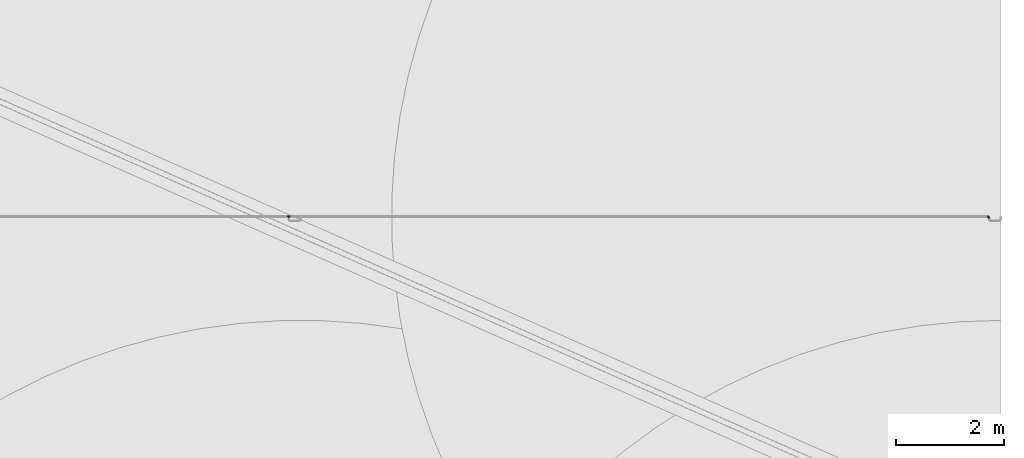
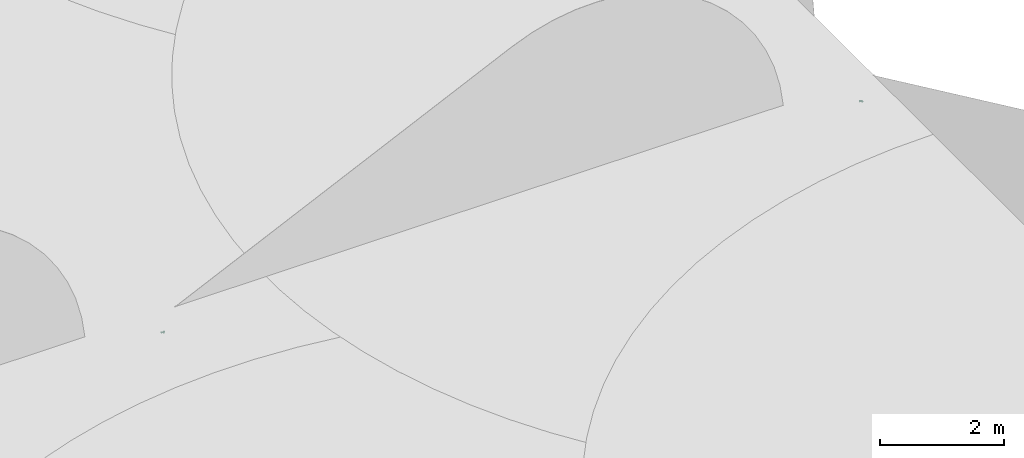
# One storey, part 155 of 166: 2 flow fittings.
"""IFC2X3 building model written with IfcOpenShell, lengths in metres."""

import ifcopenshell
import ifcopenshell.guid

model = None  # the IFC model being written
_history = None  # IfcOwnerHistory: only IFC2X3 demands one
_inside = {}  # id of a spatial element -> (the spatial element, [elements in it])
_under = {}  # id of a project, library or spatial element -> (it, [spatial elements below it])
_declared = {}  # id of a project -> (the project, [libraries it declares])
_typed = {}  # id of a type object -> (the type object, [elements of that type])
_made_of = {}  # id of a material, layer set ... -> (it, [elements and type objects made of it])


def new_model(schema):
    """Start an empty IFC model of exactly this schema.

    Asked for "IFC4X3", IfcOpenShell would pick the latest addendum, in which some entities
    have other attributes; the version numbers below select the first issue.
    IFC2X3 requires an IfcOwnerHistory on every rooted entity: one is made here for all.
    """
    global model, _history
    if schema == "IFC4X3":
        model = ifcopenshell.file(schema_version=(4, 3, 0, 0))
    else:
        model = ifcopenshell.file(schema=schema)
    _inside.clear()
    _under.clear()
    _declared.clear()
    _typed.clear()
    _made_of.clear()
    _history = None
    if model.schema == "IFC2X3":
        org = make("IfcOrganization", Name="unknown")
        user = make(
            "IfcPersonAndOrganization",
            ThePerson=make("IfcPerson", FamilyName="unknown"),
            TheOrganization=org,
        )
        app = make(
            "IfcApplication",
            ApplicationDeveloper=org,
            Version="unknown",
            ApplicationFullName="unknown",
            ApplicationIdentifier="unknown",
        )
        _history = make(
            "IfcOwnerHistory",
            OwningUser=user,
            OwningApplication=app,
            ChangeAction="ADDED",
            CreationDate=0,
        )
    return model


def make(cls, **values):
    """One entity of the class cls with the attributes given. An attribute that is None is left unset."""
    return model.create_entity(
        cls, **{name: value for name, value in values.items() if value is not None}
    )


def entity(cls, *values):
    """Any entity or typed value of the class cls, its attributes in the order of the schema. None: left unset."""
    e = model.create_entity(cls)
    for i, value in enumerate(values):
        if value is not None:
            e[i] = value
    return e


def rooted(cls, **values):
    """An entity with a GlobalId (a new one), such as an element, a storey or a relation."""
    return make(cls, GlobalId=ifcopenshell.guid.new(), OwnerHistory=_history, **values)


def si_unit(unit_type, name, prefix=None):
    """IfcSIUnit, for example si_unit("LENGTHUNIT", "METRE", prefix="MILLI")."""
    return make("IfcSIUnit", UnitType=unit_type, Prefix=prefix, Name=name)


def converted_unit(unit_type, name, factor, base, dimensions=None, offset=None):
    """IfcConversionBasedUnit, such as the inch: factor (a typed value) times the base unit."""
    return make(
        "IfcConversionBasedUnit"
        if offset is None
        else "IfcConversionBasedUnitWithOffset",
        ConversionOffset=offset,
        Dimensions=None
        if dimensions is None
        else entity("IfcDimensionalExponents", *dimensions),
        UnitType=unit_type,
        Name=name,
        ConversionFactor=make(
            "IfcMeasureWithUnit", ValueComponent=factor, UnitComponent=base
        ),
    )


def assignment(units):
    """IfcUnitAssignment: the units of a project."""
    return None if units is None else make("IfcUnitAssignment", Units=units)


def point(xyz):
    """IfcCartesianPoint."""
    return None if xyz is None else make("IfcCartesianPoint", Coordinates=xyz)


def direction(xyz):
    """IfcDirection."""
    return None if xyz is None else make("IfcDirection", DirectionRatios=xyz)


def frame(location, z_axis=None, x_axis=None):
    """IfcAxis2Placement3D, a coordinate frame: its origin and axes. An axis left out is left unset."""
    return make(
        "IfcAxis2Placement3D",
        Location=point(location),
        Axis=direction(z_axis),
        RefDirection=direction(x_axis),
    )


def origin():
    """The frame at (0, 0, 0) with its axes left unset."""
    return frame((0.0, 0.0, 0.0))


def place(relative_to, where):
    """IfcLocalPlacement: puts the frame where relative to a parent placement (None: the world)."""
    return make(
        "IfcLocalPlacement", PlacementRelTo=relative_to, RelativePlacement=where
    )


def context(
    kind, dimensions, precision=None, world=None, true_north=None, identifier=None
):
    """IfcGeometricRepresentationContext, for example the 3D "Model" context."""
    return make(
        "IfcGeometricRepresentationContext",
        ContextIdentifier=identifier,
        ContextType=kind,
        CoordinateSpaceDimension=dimensions,
        Precision=precision,
        WorldCoordinateSystem=world,
        TrueNorth=true_north,
    )


def subcontext(parent, identifier, kind, view, scale=None):
    """IfcGeometricRepresentationSubContext, for example "Body" below "Model"."""
    return make(
        "IfcGeometricRepresentationSubContext",
        ContextIdentifier=identifier,
        ContextType=kind,
        ParentContext=parent,
        TargetScale=scale,
        TargetView=view,
    )


def project(units=None, contexts=None):
    """IfcProject with its units and contexts."""
    return rooted(
        "IfcProject",
        Name="project",
        RepresentationContexts=contexts,
        UnitsInContext=assignment(units),
    )


def spatial(cls, under=None, at=None, **own):
    """A site, building, storey or space (cls), placed at a placement, below another one or the project."""
    s = rooted(cls, ObjectPlacement=at, **own)
    if under is not None:
        _under.setdefault(under.id(), (under, []))[1].append(s)
    return s


def faces_of(points, faces, orient=None, outer=None):
    """IfcFace entities. A face is a list of loops; a loop is a list of indices into points, from 0.

    orient and outer hold one flag for each loop. By default every Orientation is true, the
    first loop of a face is its IfcFaceOuterBound and the others are IfcFaceBound.
    """
    made = []
    for i, loops in enumerate(faces):
        bounds = []
        for j, loop in enumerate(loops):
            is_outer = j == 0 if outer is None else outer[i][j]
            bounds.append(
                make(
                    "IfcFaceOuterBound" if is_outer else "IfcFaceBound",
                    Bound=make("IfcPolyLoop", Polygon=[points[k] for k in loop]),
                    Orientation=True if orient is None else orient[i][j],
                )
            )
        made.append(make("IfcFace", Bounds=bounds))
    return made


def faceted_brep(points, faces, orient=None, outer=None, voids=None):
    """IfcFacetedBrep: a solid bounded by flat faces; with voids (closed shells), ...WithVoids."""
    shared = [point(p) for p in points]
    hull = make("IfcClosedShell", CfsFaces=faces_of(shared, faces, orient, outer))
    if voids is None:
        return make("IfcFacetedBrep", Outer=hull)
    return make(
        "IfcFacetedBrepWithVoids",
        Outer=hull,
        Voids=[
            make(cls, CfsFaces=faces_of(shared, fs, o, b)) for cls, fs, o, b in voids
        ],
    )


def shape(context_of_items, identifier, shape_type, items):
    """IfcShapeRepresentation: the items that make up one representation, for example the "Body"."""
    return make(
        "IfcShapeRepresentation",
        ContextOfItems=context_of_items,
        RepresentationIdentifier=identifier,
        RepresentationType=shape_type,
        Items=items,
    )


def source(mapping_origin, context_of_items, identifier, shape_type, items):
    """IfcRepresentationMap: a shape defined once, which mapped items show again and again."""
    return make(
        "IfcRepresentationMap",
        MappingOrigin=mapping_origin,
        MappedRepresentation=shape(context_of_items, identifier, shape_type, items),
    )


def transform(
    local_origin,
    x_axis=None,
    y_axis=None,
    z_axis=None,
    scale=None,
    scale2=None,
    scale3=None,
    uniform=True,
):
    """IfcCartesianTransformationOperator3D, or its non-uniform kind. x_axis, y_axis, z_axis: its Axis1, 2, 3."""
    if uniform:
        return make(
            "IfcCartesianTransformationOperator3D",
            Axis1=direction(x_axis),
            Axis2=direction(y_axis),
            LocalOrigin=point(local_origin),
            Scale=scale,
            Axis3=direction(z_axis),
        )
    return make(
        "IfcCartesianTransformationOperator3DnonUniform",
        Axis1=direction(x_axis),
        Axis2=direction(y_axis),
        LocalOrigin=point(local_origin),
        Scale=scale,
        Axis3=direction(z_axis),
        Scale2=scale2,
        Scale3=scale3,
    )


def mapped(mapping_source, mapping_target):
    """IfcMappedItem: shows the shape of a source again, moved by a transform."""
    return make(
        "IfcMappedItem", MappingSource=mapping_source, MappingTarget=mapping_target
    )


def material(Name=None, Category=None):
    """IfcMaterial."""
    return make("IfcMaterial", Name=Name, Category=Category)


def made_of(thing, what):
    """Note that an element or type object is made of a material, layer set ...; save() writes the relation."""
    if what is not None:
        _made_of.setdefault(what.id(), (what, []))[1].append(thing)
    return thing


def type_object(cls, material=None, **own):
    """A type object (cls), such as IfcWallType, which elements share."""
    return made_of(rooted(cls, **own), material)


def type_shapes(of_type, sources):
    """Give a type object the sources (RepresentationMaps) that its elements show as mapped items."""
    of_type.RepresentationMaps = sources


def element(
    cls,
    number,
    at=None,
    inside=None,
    cuts=None,
    type_object=None,
    material=None,
    context=None,
    identifier="Body",
    shape_type=None,
    held_by="IfcProductDefinitionShape",
    body=None,
    shapes=None,
    **own,
):
    """One element of the class cls, such as IfcWall. Its Tag is "e" and its number.

    at: its placement. inside: the storey or other place that contains it. cuts: it is an
    opening in that element (IfcRelVoidsElement). A single representation is given by context,
    identifier, shape_type and body (its items); several are given by shapes. held_by: the class
    of the entity that holds the representations. save() writes the other relations.
    """
    e = rooted(cls, Tag="e%d" % number, ObjectPlacement=at, **own)
    if body is not None:
        shapes = [shape(context, identifier, shape_type, body)]
    if shapes is not None:
        e.Representation = make(held_by, Representations=shapes)
    if inside is not None:
        _inside.setdefault(inside.id(), (inside, []))[1].append(e)
    if cuts is not None:
        rooted(
            "IfcRelVoidsElement", RelatingBuildingElement=cuts, RelatedOpeningElement=e
        )
    if type_object is not None:
        _typed.setdefault(type_object.id(), (type_object, []))[1].append(e)
    return made_of(e, material)


def aggregate(whole, parts):
    """IfcRelAggregates: a whole, such as a stair, and the parts it consists of."""
    return rooted("IfcRelAggregates", RelatingObject=whole, RelatedObjects=parts)


def save(model, path):
    """Write the relations noted so far, then the file.

    IfcRelAggregates (storeys below a building ...), IfcRelContainedInSpatialStructure (elements
    in a storey), IfcRelDefinesByType, IfcRelAssociatesMaterial and IfcRelDeclares: one each for
    every whole, place, type object, material and project.
    """
    for whole, parts in _under.values():
        aggregate(whole, parts)
    for where, things in _inside.values():
        rooted(
            "IfcRelContainedInSpatialStructure",
            RelatedElements=things,
            RelatingStructure=where,
        )
    for kind, things in _typed.values():
        rooted("IfcRelDefinesByType", RelatedObjects=things, RelatingType=kind)
    for what, things in _made_of.values():
        rooted("IfcRelAssociatesMaterial", RelatedObjects=things, RelatingMaterial=what)
    for by, libraries in _declared.values():
        rooted("IfcRelDeclares", RelatingContext=by, RelatedDefinitions=libraries)
    model.write(path)


model = new_model("IFC2X3")

# Units and contexts
model_context = context("Model", 3, precision=1e-05, world=origin(), true_north=direction((6.123233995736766e-17, 1.0)))
body_context = subcontext(model_context, "Body", "Model", "MODEL_VIEW")
ifc_project = project(units=[si_unit("LENGTHUNIT", "METRE"), converted_unit("PLANEANGLEUNIT", "DEGREE", entity("IfcPlaneAngleMeasure", 0.017453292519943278), si_unit("PLANEANGLEUNIT", "RADIAN"), dimensions=[0, 0, 0, 0, 0, 0, 0]), si_unit("AREAUNIT", "SQUARE_METRE")], contexts=[model_context])

# Site, building, storey
site_placement = place(None, origin())
site = spatial("IfcSite", under=ifc_project, at=site_placement, Name="Default", CompositionType="ELEMENT")
building_placement = place(site_placement, origin())
building = spatial("IfcBuilding", under=site, at=building_placement, Name="CASA DE ACOLHIDA PARA IDOSOS", CompositionType="ELEMENT")
storey_placement = place(building_placement, frame((0.0, 0.0, -1.7499999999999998)))
storey = spatial("IfcBuildingStorey", under=building, at=storey_placement, Name="IMPLANTAÇÃO DRENAGEM", CompositionType="ELEMENT", Elevation=-1.7499999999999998)

# Flow fittings
ifc_material = material(Name="PVC Branco")
pipe_fitting_type_1 = type_object("IfcPipeFittingType", Name="AF_Roscavel_Te_Reducao:Standard", PredefinedType="NOTDEFINED", material=ifc_material)
shared_shape_1 = source(origin(), body_context, "Body", "Brep", [
    faceted_brep([(-0.009400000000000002, 0.014040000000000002, 0.0), (-0.010499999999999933, 0.011611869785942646, -0.0063642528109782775), (-0.010500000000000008, 0.012355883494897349, -0.005006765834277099), (-0.010499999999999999, 0.0150999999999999, 0.0), (-0.009399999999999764, 0.008784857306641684, -0.006794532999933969), (-0.010499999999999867, 0.008123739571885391, -0.012728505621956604), (-0.009949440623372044, -0.009949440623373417, -0.010643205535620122), (-0.009399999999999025, -0.0019155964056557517, -0.012258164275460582), (-0.009399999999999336, -0.003706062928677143, -0.011820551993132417), (-0.009399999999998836, -0.006553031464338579, -0.011124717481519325), (-0.009399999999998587, -0.007976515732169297, -0.010776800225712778), (-0.009399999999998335, -0.009400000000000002, -0.010428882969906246), (-0.010499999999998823, -0.0025360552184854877, -0.011654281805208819), (-0.009399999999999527, 0.003529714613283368, -0.01358906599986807), (-0.010499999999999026, -0.0011881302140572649, -0.01179011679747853), (-0.01049999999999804, -0.010500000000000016, -0.010851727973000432), (-0.009949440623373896, -0.009949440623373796, 0.01064320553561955), (-0.009400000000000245, -0.009400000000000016, 0.010428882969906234), (-0.009400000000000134, -0.00657052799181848, 0.010641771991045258), (-0.009400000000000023, -0.0037410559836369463, 0.010854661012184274), (-0.00940000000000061, -0.0008331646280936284, 0.011073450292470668), (-0.009400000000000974, 0.007733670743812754, 0.011718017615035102), (-0.010500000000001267, 0.009299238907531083, 0.007344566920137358), (-0.010500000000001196, 0.003498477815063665, 0.014689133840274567), (-0.00940000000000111, 0.01088683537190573, 0.00585900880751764), (-0.010500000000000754, -0.002518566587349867, 0.013039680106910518), (-0.0105000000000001, -0.003500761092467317, 0.012770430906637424), (-0.010500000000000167, -0.010500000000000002, 0.01085172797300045), (-0.009399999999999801, 0.0019178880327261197, 0.011280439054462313), (-0.003273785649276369, -0.003273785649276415, 0.013652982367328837), (-0.0071620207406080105, -0.0071620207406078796, 0.011606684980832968), (0.00940000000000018, 0.0019178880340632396, 0.011280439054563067), (0.009400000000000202, 0.007733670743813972, 0.011718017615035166), (0.0, 0.0, 0.014039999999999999), (0.009400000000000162, -0.003741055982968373, 0.010854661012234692), (0.009400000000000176, -0.0008331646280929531, 0.011073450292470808), (0.006450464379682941, -0.006450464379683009, 0.012470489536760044), (0.00833239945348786, -0.008332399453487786, 0.01116785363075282), (0.009400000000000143, -0.009399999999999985, 0.010428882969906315), (0.009400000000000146, -0.00798526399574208, 0.010535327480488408), (0.009400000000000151, -0.006570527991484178, 0.010641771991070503), (0.009400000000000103, 0.01088683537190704, 0.005859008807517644), (0.009400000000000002, 0.014039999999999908, 0.0), (0.009399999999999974, 0.008784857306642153, -0.006794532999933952), (0.009399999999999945, 0.003529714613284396, -0.013589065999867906), (0.0, 0.0, -0.014039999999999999), (-0.006450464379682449, -0.006450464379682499, -0.012470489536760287), (-0.008332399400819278, -0.008332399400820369, -0.011167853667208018), (0.009400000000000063, -0.006553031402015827, -0.011124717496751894), (0.009400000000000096, -0.009399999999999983, -0.010428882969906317), (0.0071620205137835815, -0.0071620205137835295, -0.011606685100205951), (0.0032737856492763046, -0.0032737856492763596, -0.013652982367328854), (0.009400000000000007, -0.0019155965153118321, -0.012258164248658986), (0.009400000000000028, -0.0037060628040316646, -0.01182055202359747), (0.010499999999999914, 0.008123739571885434, 0.012728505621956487), (0.010499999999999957, 0.011611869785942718, 0.006364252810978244), (0.010500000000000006, -0.002536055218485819, 0.01165428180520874), (0.010499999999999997, -0.001188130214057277, 0.011790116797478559), (0.010499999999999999, 0.0151, 0.0), (0.009949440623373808, -0.00994944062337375, 0.010643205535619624), (0.010499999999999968, 0.012355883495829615, 0.005006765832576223), (0.010500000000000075, -0.01049999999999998, 0.010851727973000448), (0.010500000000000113, -0.002518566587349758, -0.013039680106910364), (0.00994944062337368, -0.009949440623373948, -0.010643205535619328), (0.010500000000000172, 0.0034984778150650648, -0.014689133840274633), (0.010500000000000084, 0.009299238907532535, -0.007344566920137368), (0.010500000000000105, -0.0035007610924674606, -0.012770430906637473), (0.010500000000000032, -0.010499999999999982, -0.010851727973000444), (-0.032, -0.007550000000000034, -0.013076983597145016), (-0.032, -0.0125, 0.0), (-0.032, -0.006250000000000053, -0.010825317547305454), (-0.032, -0.011325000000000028, -0.00653849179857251), (-0.032, 0.0062499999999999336, -0.010825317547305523), (-0.032, 0.0, -0.013076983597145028), (-0.032, -0.015100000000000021, 0.0), (-0.032, -0.006250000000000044, 0.010825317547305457), (-0.032, -0.011324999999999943, 0.006538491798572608), (-0.032, -0.00754999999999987, 0.01307698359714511), (-0.032, 0.006249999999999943, 0.010825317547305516), (-0.032, 0.0, 0.013076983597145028), (-0.032, 0.007550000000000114, 0.013076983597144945), (-0.032, 0.012256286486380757, 0.004925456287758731), (-0.032, 0.015099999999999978, 0.0), (-0.032, 0.0125, 0.0), (-0.032, 0.011324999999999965, -0.006538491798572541), (-0.032, 0.0075499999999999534, -0.01307698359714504), (-0.013760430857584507, -0.013760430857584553, 0.006217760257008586), (-0.015099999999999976, -0.015100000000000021, 0.0), (0.032000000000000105, -0.01132500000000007, 0.0065384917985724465), (0.015100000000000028, -0.0151, 0.0), (0.032000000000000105, -0.0151, 0.0), (-0.013760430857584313, -0.013760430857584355, -0.006217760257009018), (0.032000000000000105, -0.011324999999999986, -0.0065384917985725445), (0.032000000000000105, 0.007550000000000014, -0.013076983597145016), (0.032000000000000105, 0.0125, 0.0), (0.032000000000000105, 0.006250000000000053, -0.010825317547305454), (0.032000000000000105, 0.012256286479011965, -0.004925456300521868), (0.032000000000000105, -0.0062499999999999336, -0.010825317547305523), (0.032000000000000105, 0.0, -0.013076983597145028), (0.032000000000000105, 0.0151, 0.0), (0.032000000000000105, 0.006250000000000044, 0.010825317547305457), (0.032000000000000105, 0.011324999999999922, 0.006538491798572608), (0.032000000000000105, 0.00754999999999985, 0.01307698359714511), (0.032000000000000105, -0.006249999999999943, 0.010825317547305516), (0.032000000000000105, 0.0, 0.013076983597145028), (0.032000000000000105, -0.007550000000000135, 0.013076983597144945), (0.032000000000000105, -0.0125, 0.0), (0.032000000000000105, -0.007549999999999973, -0.01307698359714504), (0.013760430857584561, -0.013760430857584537, 0.00621776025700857), (0.013760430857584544, -0.013760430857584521, -0.006217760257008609), (-0.01589999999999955, -0.0125, 0.0), (-0.01589999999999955, -0.006250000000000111, 0.010825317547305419), (-0.01589999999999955, 0.006249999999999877, 0.010825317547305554), (-0.01589999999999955, 0.0125, 0.0), (-0.01589999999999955, 0.006250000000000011, -0.010825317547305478), (-0.01589999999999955, -0.0062499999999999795, -0.010825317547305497), (0.01590000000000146, -0.012499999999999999, 0.0), (0.015900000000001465, -0.006249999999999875, 0.010825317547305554), (0.015900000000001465, 0.006250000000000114, 0.010825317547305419), (0.006250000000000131, -0.031999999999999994, 0.010825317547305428), (-0.006249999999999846, -0.03200000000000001, 0.01082531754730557), (-0.006249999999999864, -0.015900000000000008, 0.010825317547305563), (0.006250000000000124, -0.015900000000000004, 0.010825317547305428), (0.015900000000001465, 0.012500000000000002, 0.0), (0.015900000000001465, 0.006249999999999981, -0.010825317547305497), (0.015900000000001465, -0.006250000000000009, -0.010825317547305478), (-0.0062499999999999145, -0.03200000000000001, -0.010825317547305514), (0.006250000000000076, -0.031999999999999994, -0.010825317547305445), (0.006249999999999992, -0.015900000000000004, -0.01082531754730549), (-0.006249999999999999, -0.015900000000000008, -0.010825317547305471), (0.012500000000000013, -0.0159, 0.0), (-0.012499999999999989, -0.01590000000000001, 0.0), (0.012500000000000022, -0.03199999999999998, 0.0), (-0.01249999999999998, -0.03200000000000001, 0.0), (-0.005668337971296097, -0.00940000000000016, -0.01186229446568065), (9.767713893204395e-07, -0.009400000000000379, -0.014039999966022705), (0.005668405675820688, -0.009399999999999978, 0.011862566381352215), (9.767713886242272e-07, -0.00939999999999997, 0.014039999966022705), (0.0016561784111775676, -0.010500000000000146, 0.015008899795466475), (-0.0025917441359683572, -0.010500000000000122, 0.01355619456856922), (-0.001654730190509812, -0.010499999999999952, -0.015009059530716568), (0.0025918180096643, -0.010500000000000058, -0.013556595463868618), (0.007550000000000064, -0.03199999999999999, -0.013076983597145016), (0.011325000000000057, -0.03199999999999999, -0.00653849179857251), (0.0, -0.032, -0.013076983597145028), (0.015100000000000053, -0.03199999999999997, 0.0), (0.011324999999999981, -0.03199999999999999, 0.006538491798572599), (0.007549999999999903, -0.03199999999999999, 0.01307698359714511), (0.0, -0.032, 0.013076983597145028), (-0.007550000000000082, -0.032000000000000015, 0.013076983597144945), (-0.011325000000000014, -0.03200000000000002, 0.006538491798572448), (-0.015099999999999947, -0.03200000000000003, 0.0), (-0.011324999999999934, -0.03200000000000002, -0.006538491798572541), (-0.0075499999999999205, -0.032000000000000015, -0.01307698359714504)], [[[0, 1, 2, 3]], [[4, 5, 1]], [[6, 7, 8, 9, 10, 11]], [[12, 7, 6]], [[13, 12, 14, 5]], [[13, 7, 12]], [[0, 4, 1]], [[5, 4, 13]], [[6, 15, 12]], [[16, 17, 18, 19, 20]], [[21, 22, 23]], [[3, 24, 0]], [[3, 22, 24]], [[25, 20, 23]], [[22, 21, 24]], [[16, 25, 26, 27]], [[20, 25, 16]], [[23, 20, 28, 21]], [[29, 28, 20, 19, 18, 17, 30]], [[31, 32, 33, 34, 35]], [[33, 28, 29]], [[36, 37, 38, 39, 40, 34]], [[21, 32, 41, 42, 0, 24]], [[32, 21, 33]], [[21, 28, 33]], [[36, 34, 33]], [[43, 44, 45]], [[45, 13, 4]], [[9, 8, 46, 47, 11, 10]], [[43, 4, 0, 42]], [[48, 49, 50, 51, 44, 52, 53]], [[45, 8, 7, 13]], [[46, 8, 45]], [[51, 45, 44]], [[4, 43, 45]], [[32, 54, 55]], [[55, 41, 32]], [[35, 56, 57, 54]], [[42, 41, 58]], [[59, 35, 34, 40, 39, 38]], [[54, 32, 31, 35]], [[41, 55, 60, 58]], [[59, 56, 35]], [[59, 61, 56]], [[52, 62, 63]], [[44, 64, 52]], [[58, 43, 42]], [[58, 65, 43]], [[63, 49, 48, 53, 52]], [[65, 44, 43]], [[63, 62, 66, 67]], [[44, 65, 64]], [[62, 52, 64]], [[68, 69, 70]], [[69, 68, 71]], [[68, 70, 72]], [[72, 73, 68]], [[69, 71, 74]], [[75, 69, 74]], [[75, 74, 76]], [[75, 76, 77]], [[75, 77, 78]], [[78, 77, 79]], [[78, 79, 80]], [[78, 80, 81]], [[78, 81, 82]], [[82, 83, 78]], [[83, 82, 84]], [[83, 84, 85]], [[85, 72, 83]], [[72, 85, 73]], [[22, 80, 23]], [[23, 80, 79]], [[81, 22, 3]], [[77, 27, 26]], [[80, 22, 81]], [[86, 76, 87]], [[3, 82, 81]], [[26, 79, 77]], [[86, 77, 76]], [[74, 87, 76]], [[88, 89, 90]], [[79, 26, 25, 23]], [[86, 27, 77]], [[82, 3, 2]], [[91, 71, 68]], [[87, 71, 91]], [[15, 91, 68]], [[71, 87, 74]], [[90, 89, 92]], [[68, 14, 12, 15]], [[73, 85, 5]], [[5, 85, 84]], [[84, 82, 2]], [[73, 5, 14]], [[14, 68, 73]], [[84, 2, 1, 5]], [[93, 94, 95]], [[94, 93, 96]], [[93, 95, 97]], [[97, 98, 93]], [[94, 96, 99]], [[100, 94, 99]], [[100, 99, 101]], [[100, 101, 102]], [[100, 102, 103]], [[103, 102, 104]], [[103, 104, 105]], [[103, 105, 88]], [[103, 88, 90]], [[90, 106, 103]], [[106, 90, 92]], [[106, 92, 107]], [[107, 97, 106]], [[97, 107, 98]], [[99, 58, 60]], [[108, 88, 105]], [[89, 88, 108]], [[61, 108, 105]], [[105, 57, 56, 61]], [[104, 102, 54]], [[54, 102, 101]], [[101, 99, 60]], [[104, 54, 57]], [[57, 105, 104]], [[101, 60, 55, 54]], [[65, 93, 64]], [[64, 93, 98]], [[96, 65, 58]], [[107, 67, 66]], [[93, 65, 96]], [[109, 92, 89]], [[58, 99, 96]], [[66, 98, 107]], [[109, 107, 92]], [[98, 66, 62, 64]], [[109, 67, 107]], [[110, 111, 112, 113, 114, 115]], [[69, 75, 111, 110]], [[103, 106, 116, 117]], [[75, 78, 112, 111]], [[100, 103, 117, 118]], [[119, 120, 121, 122]], [[78, 83, 113, 112]], [[94, 100, 118, 123]], [[83, 72, 114, 113]], [[95, 94, 123, 124]], [[72, 70, 115, 114]], [[97, 95, 124, 125]], [[126, 127, 128, 129]], [[70, 69, 110, 115]], [[106, 97, 125, 116]], [[123, 118, 117, 116, 125, 124]], [[130, 122, 121, 131, 129, 128]], [[132, 119, 122, 130]], [[120, 133, 131, 121]], [[133, 126, 129, 131]], [[127, 132, 130, 128]], [[46, 45, 51]], [[134, 11, 47, 46, 135]], [[135, 51, 50, 49]], [[51, 135, 46]], [[136, 38, 37, 36, 137]], [[137, 36, 29]], [[137, 29, 30, 17]], [[33, 29, 36]], [[138, 59, 137]], [[16, 139, 137]], [[138, 61, 59]], [[59, 38, 136, 137]], [[17, 16, 137]], [[137, 139, 138]], [[16, 27, 139]], [[140, 6, 135]], [[63, 141, 135]], [[140, 15, 6]], [[6, 11, 134, 135]], [[49, 63, 135]], [[135, 141, 140]], [[63, 67, 141]], [[142, 132, 127]], [[132, 142, 143]], [[142, 127, 126]], [[126, 144, 142]], [[132, 143, 145]], [[119, 132, 145]], [[119, 145, 146]], [[119, 146, 147]], [[119, 147, 120]], [[120, 147, 148]], [[120, 148, 149]], [[120, 149, 150]], [[120, 150, 151]], [[151, 133, 120]], [[133, 151, 152]], [[133, 152, 153]], [[153, 126, 133]], [[126, 153, 144]], [[87, 151, 150]], [[87, 150, 86]], [[149, 86, 150]], [[86, 149, 27]], [[149, 138, 139, 27]], [[145, 89, 146]], [[89, 108, 146]], [[108, 147, 146]], [[138, 149, 148, 147]], [[138, 147, 61]], [[147, 108, 61]], [[89, 145, 143]], [[89, 143, 109]], [[142, 109, 143]], [[109, 142, 67]], [[142, 140, 141, 67]], [[151, 87, 152]], [[87, 91, 152]], [[91, 153, 152]], [[140, 142, 144, 153]], [[140, 153, 15]], [[153, 91, 15]]]),
])
type_shapes(pipe_fitting_type_1, [shared_shape_1])
flow_fitting_1_placement = place(storey_placement, frame((33.00905110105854, 9.654942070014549, -0.19999999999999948), z_axis=(0.0, 0.0, -1.0), x_axis=(-1.0, 0.0, 0.0)))
element("IfcFlowFitting", 1, at=flow_fitting_1_placement, inside=storey, type_object=pipe_fitting_type_1, material=ifc_material, Name="AF_Roscavel_Te_Reducao:Standard", ObjectType="AF_Roscavel_Te_Reducao:Standard", context=body_context, shape_type="MappedRepresentation", body=[
    mapped(shared_shape_1, transform((0.0, 0.0, 0.0), scale=1.0)),
])
pipe_fitting_type_2 = type_object("IfcPipeFittingType", Name="AF_Roscavel _Joelho 45_90:Standard", PredefinedType="NOTDEFINED", material=ifc_material)
shared_shape_2 = source(origin(), body_context, "Body", "Brep", [
    faceted_brep([(-0.01679999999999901, -0.012616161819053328, -0.010587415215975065), (-0.00016499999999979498, -0.01201266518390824, 0.0), (-0.01679999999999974, -0.016469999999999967, 0.0), (0.008619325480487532, 0.003305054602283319, -0.01130283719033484), (-0.0019587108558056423, -0.007478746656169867, -0.011636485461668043), (-0.002997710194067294, 0.004547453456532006, -0.01638652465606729), (0.008606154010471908, 0.003179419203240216, 0.0), (-0.01679999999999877, 0.0028622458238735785, -0.01621938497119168), (-0.01679999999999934, 0.012618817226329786, -0.010584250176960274), (-0.01656665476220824, 0.016566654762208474, 0.0), (-0.0167999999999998, 0.016470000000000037, 0.0), (-0.016799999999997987, -0.004876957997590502, -0.013403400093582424), (0.002858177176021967, 0.016799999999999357, -0.016220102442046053), (0.012616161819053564, 0.016799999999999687, -0.010587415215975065), (-0.01261881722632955, 0.01679999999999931, -0.010584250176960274), (-0.004880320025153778, 0.016799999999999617, -0.013402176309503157), (-0.0164699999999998, 0.016800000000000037, 0.0), (0.016470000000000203, 0.01679999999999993, 0.0), (0.005872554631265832, 0.002004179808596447, 0.012873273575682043), (0.012616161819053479, 0.01679999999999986, 0.010587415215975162), (0.004876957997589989, 0.016800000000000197, 0.013403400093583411), (-0.0028622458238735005, 0.01679999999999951, 0.01621938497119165), (-0.003427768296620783, -0.008647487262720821, 0.011337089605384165), (-0.006437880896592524, 0.004263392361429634, 0.01646129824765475), (-0.016799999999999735, -0.012616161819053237, 0.01058741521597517), (-0.01679999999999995, -0.0028581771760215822, 0.016220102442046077), (-0.01680000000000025, 0.012618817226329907, 0.010584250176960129), (-0.012618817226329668, 0.016799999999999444, 0.01058425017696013), (-0.016800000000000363, 0.004880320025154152, 0.01340217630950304), (-0.0357999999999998, -0.004736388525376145, -0.017676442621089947), (-0.0357999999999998, -0.003235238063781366, -0.012074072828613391), (-0.0357999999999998, 0.0032352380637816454, -0.01207407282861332), (-0.0357999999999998, -0.015848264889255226, -0.00914999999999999), (-0.0357999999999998, 0.004736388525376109, -0.01767644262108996), (-0.0357999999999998, -0.0108253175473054, -0.0062500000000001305), (-0.0357999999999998, -0.012499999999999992, 0.0), (-0.0357999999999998, -0.018299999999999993, 0.0), (-0.0357999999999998, -0.010825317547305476, 0.006249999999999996), (-0.0357999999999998, -0.01584826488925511, 0.009150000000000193), (-0.0357999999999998, -0.003235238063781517, 0.01207407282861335), (-0.0357999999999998, -0.004736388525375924, 0.017676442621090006), (-0.0357999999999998, 0.003235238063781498, 0.012074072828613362), (-0.0357999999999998, 0.004736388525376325, 0.017676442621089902), (-0.0357999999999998, 0.010825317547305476, 0.006250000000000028), (-0.0357999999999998, 0.015848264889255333, 0.009149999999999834), (-0.0357999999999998, 0.01830000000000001, 0.0), (-0.0357999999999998, 0.01250000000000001, 0.0), (-0.0357999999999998, 0.015848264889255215, -0.009150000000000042), (-0.0357999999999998, 0.01082531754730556, -0.006249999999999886), (-0.017899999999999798, 0.01082531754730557, -0.006249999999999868), (-0.017899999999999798, 0.01250000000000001, 0.0), (-0.017899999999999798, 0.0032352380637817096, -0.012074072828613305), (-0.017899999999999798, -0.003235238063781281, -0.012074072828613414), (0.0032352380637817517, 0.03580000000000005, -0.01207407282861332), (-0.00323523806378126, 0.03580000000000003, -0.012074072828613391), (-0.0032352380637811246, 0.017899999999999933, -0.012074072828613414), (0.0032352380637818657, 0.017900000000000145, -0.012074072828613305), (-0.017899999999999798, -0.01082531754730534, -0.006250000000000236), (-0.017899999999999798, -0.012499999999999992, 0.0), (-0.017899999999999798, -0.010825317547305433, 0.006250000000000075), (-0.017899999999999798, -0.003235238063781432, 0.012074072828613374), (-0.017899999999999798, 0.003235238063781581, 0.012074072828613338), (-0.003235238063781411, 0.03580000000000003, 0.01207407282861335), (0.0032352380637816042, 0.03580000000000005, 0.012074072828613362), (0.0032352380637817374, 0.017900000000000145, 0.012074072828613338), (-0.0032352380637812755, 0.017899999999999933, 0.012074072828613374), (-0.017899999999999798, 0.010825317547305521, 0.006249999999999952), (-0.01829999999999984, 0.01830000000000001, 0.0), (-0.018198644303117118, 0.018198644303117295, 0.0019233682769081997), (-0.017900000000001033, 0.01789999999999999, 0.0038052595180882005), (-0.01789999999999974, 0.011924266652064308, 0.013881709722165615), (-0.017899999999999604, 0.001061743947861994, 0.01826917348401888), (-0.01789999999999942, -0.014552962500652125, 0.011095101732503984), (-0.017900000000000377, -0.0067456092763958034, 0.014682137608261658), (-0.017899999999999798, -0.018299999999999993, 0.0), (-0.017899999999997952, -0.014552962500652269, -0.011095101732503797), (-0.01789999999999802, -0.004841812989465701, -0.017647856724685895), (-0.017899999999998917, 0.011924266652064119, -0.013881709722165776), (-0.018198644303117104, 0.018198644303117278, -0.0019233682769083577), (-0.017899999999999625, 0.017899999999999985, -0.0038052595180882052), (-0.0178999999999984, 0.0035412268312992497, -0.01576478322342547), (-0.01729726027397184, 0.017297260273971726, 0.0), (-0.01746011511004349, 0.017460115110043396, -0.0019456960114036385), (-0.017460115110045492, 0.017460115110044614, 0.0019456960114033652), (-0.004736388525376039, 0.035800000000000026, -0.017676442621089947), (-0.01584826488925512, 0.03579999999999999, -0.00914999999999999), (0.004736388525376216, 0.035800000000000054, -0.01767644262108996), (-0.010825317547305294, 0.035800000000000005, -0.0062500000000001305), (-0.012499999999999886, 0.035800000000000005, 0.0), (-0.01829999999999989, 0.035799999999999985, 0.0), (-0.010825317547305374, 0.035800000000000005, 0.006249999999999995), (-0.015848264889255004, 0.03579999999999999, 0.009150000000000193), (-0.004736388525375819, 0.035800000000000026, 0.017676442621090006), (0.004736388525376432, 0.035800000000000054, 0.017676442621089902), (0.010825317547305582, 0.03580000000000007, 0.006250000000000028), (0.01584826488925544, 0.03580000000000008, 0.009149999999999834), (0.018300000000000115, 0.03580000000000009, 0.0), (0.012500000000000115, 0.035800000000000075, 0.0), (0.01584826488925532, 0.03580000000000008, -0.009150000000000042), (0.010825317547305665, 0.03580000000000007, -0.006249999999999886), (0.018300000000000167, 0.01790000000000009, 0.0), (0.014552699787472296, 0.01790000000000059, 0.011095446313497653), (0.004841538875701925, 0.017900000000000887, 0.01764793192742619), (-0.011924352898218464, 0.01790000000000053, 0.013881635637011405), (-0.00354140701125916, 0.017900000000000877, 0.015764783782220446), (-0.011924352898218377, 0.017899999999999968, -0.013881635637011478), (-0.0010619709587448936, 0.017900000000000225, -0.018269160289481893), (0.01455269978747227, 0.017900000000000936, -0.011095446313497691), (0.006745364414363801, 0.017899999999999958, -0.014682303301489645), (0.010825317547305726, 0.01790000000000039, -0.006249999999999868), (0.012500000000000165, 0.017900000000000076, 0.0), (-0.010825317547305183, 0.017899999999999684, -0.006250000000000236), (-0.012499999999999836, 0.01789999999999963, 0.0), (-0.010825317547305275, 0.017899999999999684, 0.006250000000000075), (0.010825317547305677, 0.01790000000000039, 0.006249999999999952)], [[[0, 1, 2]], [[3, 4, 5]], [[4, 3, 6]], [[7, 8, 5]], [[9, 8, 10]], [[4, 0, 11, 7]], [[12, 13, 3]], [[4, 6, 1]], [[6, 3, 13]], [[14, 5, 8]], [[4, 1, 0]], [[5, 14, 15, 12]], [[16, 14, 9]], [[14, 8, 9]], [[12, 3, 5]], [[5, 4, 7]], [[17, 6, 13]], [[18, 19, 20, 21]], [[6, 18, 1]], [[22, 1, 18]], [[23, 18, 21]], [[1, 24, 2]], [[25, 22, 23]], [[22, 24, 1]], [[9, 10, 26]], [[27, 16, 9]], [[26, 23, 27]], [[6, 17, 19]], [[27, 23, 21]], [[22, 25, 24]], [[23, 22, 18]], [[23, 26, 28, 25]], [[18, 6, 19]], [[26, 27, 9]], [[29, 30, 31]], [[30, 29, 32]], [[31, 33, 29]], [[32, 34, 30]], [[32, 35, 34]], [[35, 32, 36]], [[37, 35, 36]], [[37, 36, 38]], [[38, 39, 37]], [[38, 40, 39]], [[39, 40, 41]], [[42, 41, 40]], [[42, 43, 41]], [[43, 42, 44]], [[45, 43, 44]], [[46, 43, 45]], [[47, 46, 45]], [[47, 48, 46]], [[48, 47, 33]], [[33, 31, 48]], [[49, 50, 46, 48]], [[51, 49, 48, 31]], [[31, 30, 52, 51]], [[53, 54, 55, 56]], [[57, 52, 30, 34]], [[58, 57, 34, 35]], [[59, 58, 35, 37]], [[60, 59, 37, 39]], [[39, 41, 61, 60]], [[62, 63, 64, 65]], [[66, 61, 41, 43]], [[50, 66, 43, 46]], [[67, 45, 68]], [[68, 45, 44]], [[44, 69, 68]], [[69, 44, 70]], [[44, 42, 70]], [[71, 42, 40]], [[72, 40, 38]], [[40, 72, 73, 71]], [[74, 72, 38]], [[36, 74, 38]], [[42, 71, 70]], [[74, 36, 32]], [[75, 32, 29]], [[32, 75, 74]], [[75, 29, 76]], [[29, 33, 76]], [[77, 33, 47]], [[78, 47, 45]], [[77, 47, 79]], [[79, 47, 78]], [[45, 67, 78]], [[33, 77, 80, 76]], [[59, 60, 61, 66, 50, 49, 51, 52, 57, 58]], [[81, 10, 8]], [[81, 8, 82]], [[82, 77, 79]], [[77, 82, 8]], [[7, 76, 80, 77]], [[0, 75, 11]], [[75, 0, 2]], [[7, 11, 76]], [[11, 75, 76]], [[74, 75, 2]], [[7, 77, 8]], [[73, 24, 25]], [[2, 24, 72]], [[72, 74, 2]], [[24, 73, 72]], [[71, 25, 28]], [[70, 28, 26]], [[26, 10, 81]], [[26, 81, 83]], [[70, 83, 69]], [[83, 70, 26]], [[25, 71, 73]], [[71, 28, 70]], [[84, 54, 53]], [[54, 84, 85]], [[53, 86, 84]], [[85, 87, 54]], [[85, 88, 87]], [[88, 85, 89]], [[90, 88, 89]], [[90, 89, 91]], [[91, 62, 90]], [[91, 92, 62]], [[62, 92, 63]], [[93, 63, 92]], [[93, 94, 63]], [[94, 93, 95]], [[96, 94, 95]], [[97, 94, 96]], [[98, 97, 96]], [[98, 99, 97]], [[99, 98, 86]], [[86, 53, 99]], [[100, 96, 95]], [[101, 95, 93]], [[95, 101, 100]], [[101, 93, 102]], [[93, 92, 102]], [[103, 92, 91]], [[68, 91, 89]], [[103, 91, 69]], [[69, 91, 68]], [[89, 67, 68]], [[92, 103, 104, 102]], [[67, 89, 78]], [[78, 89, 85]], [[85, 79, 78]], [[79, 85, 105]], [[85, 84, 105]], [[106, 84, 86]], [[107, 86, 98]], [[86, 107, 108, 106]], [[100, 107, 98]], [[96, 100, 98]], [[84, 106, 105]], [[109, 110, 97, 99]], [[56, 109, 99, 53]], [[111, 55, 54, 87]], [[112, 111, 87, 88]], [[113, 112, 88, 90]], [[65, 113, 90, 62]], [[114, 64, 63, 94]], [[110, 114, 94, 97]], [[113, 65, 64, 114, 110, 109, 56, 55, 111, 112]], [[108, 13, 12]], [[17, 13, 107]], [[107, 100, 17]], [[13, 108, 107]], [[106, 12, 15]], [[105, 15, 14]], [[14, 16, 81]], [[14, 81, 82]], [[105, 82, 79]], [[82, 105, 14]], [[12, 106, 108]], [[106, 15, 105]], [[81, 16, 27]], [[81, 27, 83]], [[83, 103, 69]], [[103, 83, 27]], [[21, 102, 104, 103]], [[19, 101, 20]], [[101, 19, 17]], [[21, 20, 102]], [[20, 101, 102]], [[100, 101, 17]], [[21, 103, 27]]]),
])
type_shapes(pipe_fitting_type_2, [shared_shape_2])
flow_fitting_2_placement = place(storey_placement, frame((45.97645110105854, 9.654942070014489, -0.19999999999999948), z_axis=(0.0, 0.0, 1.0), x_axis=(0.0, 1.0, 0.0)))
element("IfcFlowFitting", 2, at=flow_fitting_2_placement, inside=storey, type_object=pipe_fitting_type_2, material=ifc_material, Name="AF_Roscavel _Joelho 45_90:Standard", ObjectType="AF_Roscavel _Joelho 45_90:Standard", context=body_context, shape_type="MappedRepresentation", body=[
    mapped(shared_shape_2, transform((0.0, 0.0, 0.0), scale=1.0)),
])

save(model, "model.ifc")
